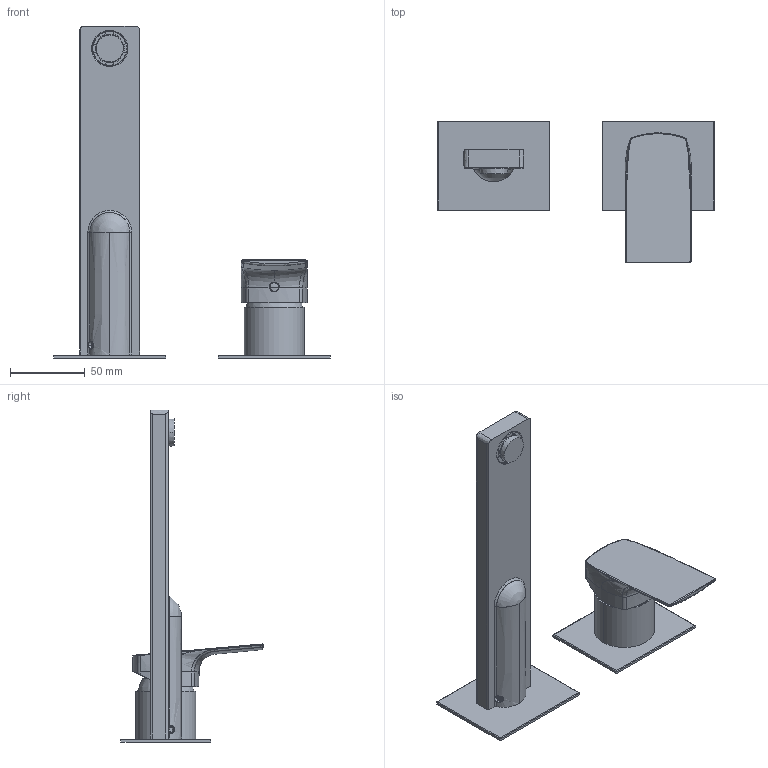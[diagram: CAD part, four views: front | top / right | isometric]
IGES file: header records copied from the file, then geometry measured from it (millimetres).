
Start section:  PTC IGES file: 3d_sw0008.igs
Global section: file name: 3d_sw0008.igs; native system: Creo Parametric by PTC Inc.; preprocessor: 2022014; author: volponeff; organization: Unknown; date: 20241007.164851; units: millimetre
Bounding box: 185 x 95 x 222 mm (x, y, z)
Surface area: 95350.1 mm2 (no closed solid volume)
Topology: 0 solids, 0 shells, 952 faces, 5351 edges, 5342 vertices
Faces by surface type: revolution 540, bspline 412
